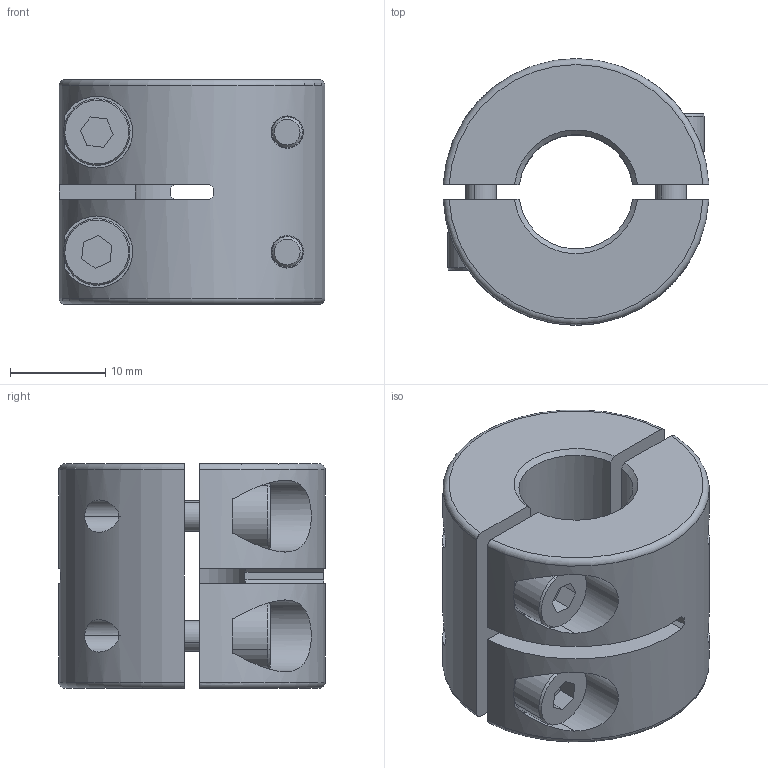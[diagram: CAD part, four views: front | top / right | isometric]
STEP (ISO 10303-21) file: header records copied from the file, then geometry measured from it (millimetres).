
FILE_DESCRIPTION (( 'STEP AP203' ), '1' );
FILE_NAME ('Ruland_MWSP-12-F.step', '2017-08-22T12:48:56', ( '' ), ( '' ), 'SwSTEP 2.0', 'SolidWorks 2017', '' );
FILE_SCHEMA (( 'CONFIG_CONTROL_DESIGN' ));
Length unit declared in the file: inch
Products named in the file (4): Ruland_MWSP-12-F; MWSP Dbl Wide Collars top and bottom_MWSP-12; MWSP Assembled_MWSP-12-F; Metric Socket Head Cap Screws 1_CFM4_12
Assembly tree (7 placements, depth 3):
  Ruland_MWSP-12-F
    MWSP Assembled_MWSP-12-F
      MWSP Dbl Wide Collars top and bottom_MWSP-12  x2
    Metric Socket Head Cap Screws 1_CFM4_12  x4
Bounding box: 27.95 x 28 x 23.59 mm (x, y, z)
Volume: 10293.8 mm3; surface area: 6810.8 mm2
Topology: 6 solids, 6 shells, 136 faces, 320 edges, 208 vertices
Faces by surface type: plane 64, cylinder 48, cone 20, torus 4
Entity records: 2256 total; most frequent: CARTESIAN_POINT 521, DIRECTION 264, ORIENTED_EDGE 244, EDGE_CURVE 122, AXIS2_PLACEMENT_3D 103, VERTEX_POINT 80, EDGE_LOOP 62, VECTOR 58
